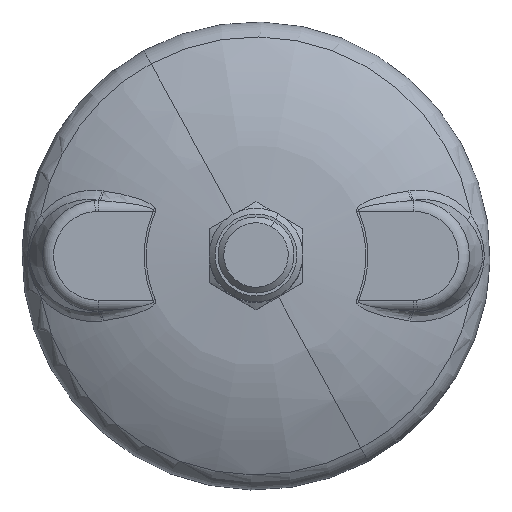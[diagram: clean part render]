
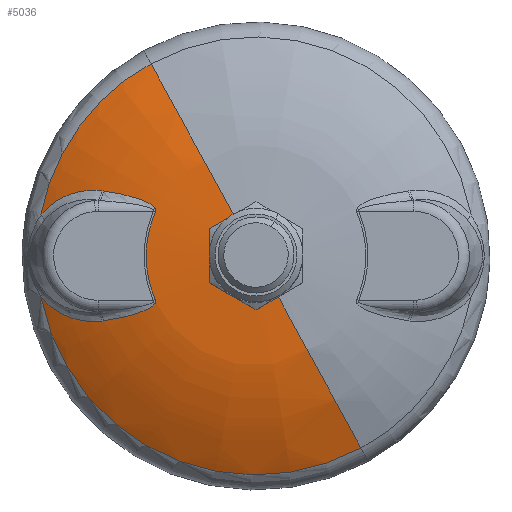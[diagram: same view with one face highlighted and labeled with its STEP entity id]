
A CAD part, top view. The second image highlights one B-rep face of the part: STEP entity #5036.
In plain terms, the highlighted face is a revolution surface.
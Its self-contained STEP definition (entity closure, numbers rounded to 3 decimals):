
#2586=EDGE_CURVE('',#7597,#7598,#7599,.T.);
#2624=EDGE_CURVE('',#7665,#7666,#7667,.F.);
#3098=EDGE_CURVE('',#8497,#8498,#8499,.F.);
#4350=EDGE_CURVE('',#10439,#10440,#10441,.T.);
#4548=EDGE_CURVE('',#10724,#7666,#10725,.T.);
#5036=ADVANCED_FACE('',(#11381),#11382,.F.);
#5262=EDGE_CURVE('',#11555,#8497,#11677,.T.);
#5446=EDGE_CURVE('',#10439,#11555,#11904,.F.);
#5798=EDGE_CURVE('',#10440,#7598,#12333,.T.);
#5832=EDGE_CURVE('',#10467,#11928,#12373,.F.);
#6240=EDGE_CURVE('',#11928,#7665,#12854,.F.);
#6622=EDGE_CURVE('',#8498,#10467,#13299,.F.);
#7252=EDGE_CURVE('',#10724,#7597,#14025,.T.);
#7597=VERTEX_POINT('',#14565);
#7598=VERTEX_POINT('',#14566);
#7599=CIRCLE('',#14567,8.0);
#7665=VERTEX_POINT('',#14710);
#7666=VERTEX_POINT('',#14711);
#7667=B_SPLINE_CURVE_WITH_KNOTS('',5,(#14712,#14713,#14714,#14715,#14716,#14717,#14718,#14719,#14720,#14721,#14722,#14723),.UNSPECIFIED.,.F.,.F.,(6,3,3,6),(46.598,50.847,54.838,60.567),.UNSPECIFIED.);
#8497=VERTEX_POINT('',#16446);
#8498=VERTEX_POINT('',#16447);
#8499=B_SPLINE_CURVE_WITH_KNOTS('',5,(#16448,#16449,#16450,#16451,#16452,#16453,#16454,#16455,#16456,#16457,#16458,#16459,#16460,#16461,#16462,#16463,#16464,#16465,#16466,#16467,#16468,#16469,#16470,#16471),.UNSPECIFIED.,.F.,.F.,(6,3,3,3,3,3,3,6),(30.415,30.632,30.85,31.433,32.436,34.208,38.264,44.425),.UNSPECIFIED.);
#10439=VERTEX_POINT('',#21092);
#10440=VERTEX_POINT('',#21093);
#10441=CIRCLE('',#21094,37.429);
#10467=VERTEX_POINT('',#21154);
#10724=VERTEX_POINT('',#21709);
#10725=CIRCLE('',#21710,37.429);
#11381=FACE_OUTER_BOUND('',#23150,.T.);
#11382=SURFACE_OF_REVOLUTION('',#23151,#23152);
#11555=VERTEX_POINT('',#23584);
#11677=B_SPLINE_CURVE_WITH_KNOTS('',3,(#23995,#23996,#23997,#23998),.UNSPECIFIED.,.F.,.F.,(4,4),(22.922,23.374),.UNSPECIFIED.);
#11904=B_SPLINE_CURVE_WITH_KNOTS('',5,(#24529,#24530,#24531,#24532,#24533,#24534,#24535,#24536,#24537,#24538,#24539,#24540),.UNSPECIFIED.,.F.,.F.,(6,3,3,6),(20.32,27.869,31.321,34.286),.UNSPECIFIED.);
#11928=VERTEX_POINT('',#24585);
#12333=CIRCLE('',#25509,60.571);
#12373=B_SPLINE_CURVE_WITH_KNOTS('',5,(#25616,#25617,#25618,#25619,#25620,#25621,#25622,#25623,#25624,#25625,#25626,#25627,#25628,#25629,#25630,#25631,#25632,#25633,#25634,#25635,#25636),.UNSPECIFIED.,.F.,.F.,(6,3,3,3,3,3,6),(20.702,28.583,32.378,33.408,34.102,34.446,34.702),.UNSPECIFIED.);
#12854=B_SPLINE_CURVE_WITH_KNOTS('',3,(#26955,#26956,#26957,#26958),.UNSPECIFIED.,.F.,.F.,(4,4),(22.922,23.374),.UNSPECIFIED.);
#13299=CIRCLE('',#28031,18.786);
#14025=CIRCLE('',#29837,60.571);
#14565=CARTESIAN_POINT('',(-3.835,7.021,17.0));
#14566=CARTESIAN_POINT('',(3.835,-7.021,17.0));
#14567=AXIS2_PLACEMENT_3D('',#30321,#30322,#30323);
#14710=CARTESIAN_POINT('',(-26.373,11.133,13.38));
#14711=CARTESIAN_POINT('',(-36.769,6.997,9.37));
#14712=CARTESIAN_POINT('',(-36.769,6.997,9.37));
#14713=CARTESIAN_POINT('',(-36.211,7.682,9.604));
#14714=CARTESIAN_POINT('',(-35.616,8.275,9.851));
#14715=CARTESIAN_POINT('',(-35.,8.788,10.103));
#14716=CARTESIAN_POINT('',(-33.777,9.646,10.598));
#14717=CARTESIAN_POINT('',(-32.52,10.263,11.094));
#14718=CARTESIAN_POINT('',(-31.907,10.51,11.333));
#14719=CARTESIAN_POINT('',(-30.413,10.997,11.909));
#14720=CARTESIAN_POINT('',(-28.927,11.22,12.464));
#14721=CARTESIAN_POINT('',(-28.06,11.268,12.781));
#14722=CARTESIAN_POINT('',(-27.207,11.238,13.087));
#14723=CARTESIAN_POINT('',(-26.373,11.133,13.38));
#16446=CARTESIAN_POINT('',(-26.073,-11.095,13.484));
#16447=CARTESIAN_POINT('',(-17.242,-7.458,16.032));
#16448=CARTESIAN_POINT('',(-17.242,-7.458,16.032));
#16449=CARTESIAN_POINT('',(-17.219,-7.511,16.032));
#16450=CARTESIAN_POINT('',(-17.199,-7.569,16.031));
#16451=CARTESIAN_POINT('',(-17.185,-7.63,16.029));
#16452=CARTESIAN_POINT('',(-17.172,-7.751,16.022));
#16453=CARTESIAN_POINT('',(-17.183,-7.858,16.012));
#16454=CARTESIAN_POINT('',(-17.193,-7.908,16.007));
#16455=CARTESIAN_POINT('',(-17.24,-8.074,15.986));
#16456=CARTESIAN_POINT('',(-17.315,-8.197,15.964));
#16457=CARTESIAN_POINT('',(-17.373,-8.277,15.947));
#16458=CARTESIAN_POINT('',(-17.542,-8.473,15.902));
#16459=CARTESIAN_POINT('',(-17.727,-8.626,15.857));
#16460=CARTESIAN_POINT('',(-17.844,-8.713,15.828));
#16461=CARTESIAN_POINT('',(-18.182,-8.939,15.747));
#16462=CARTESIAN_POINT('',(-18.534,-9.126,15.663));
#16463=CARTESIAN_POINT('',(-18.758,-9.234,15.61));
#16464=CARTESIAN_POINT('',(-19.512,-9.571,15.427));
#16465=CARTESIAN_POINT('',(-20.283,-9.84,15.232));
#16466=CARTESIAN_POINT('',(-20.822,-10.012,15.091));
#16467=CARTESIAN_POINT('',(-22.189,-10.402,14.719));
#16468=CARTESIAN_POINT('',(-23.569,-10.705,14.309));
#16469=CARTESIAN_POINT('',(-24.4,-10.861,14.049));
#16470=CARTESIAN_POINT('',(-25.236,-10.992,13.773));
#16471=CARTESIAN_POINT('',(-26.073,-11.095,13.484));
#21092=CARTESIAN_POINT('',(-36.769,-6.997,9.37));
#21093=CARTESIAN_POINT('',(17.945,-32.847,9.37));
#21094=AXIS2_PLACEMENT_3D('',#33059,#33060,#33061);
#21154=CARTESIAN_POINT('',(-17.242,7.458,16.032));
#21709=CARTESIAN_POINT('',(-17.945,32.847,9.37));
#21710=AXIS2_PLACEMENT_3D('',#33296,#33297,#33298);
#23150=EDGE_LOOP('',(#34014,#34015,#34016,#34017,#34018,#34019,#34020,#34021,#34022,#34023,#34024,#34025));
#23151=B_SPLINE_CURVE_WITH_KNOTS('',4,(#34026,#34027,#34028,#34029,#34030),.UNSPECIFIED.,.F.,.F.,(5,5),(64.415,95.145),.UNSPECIFIED.);
#23152=AXIS1_PLACEMENT('',#34031,#34032);
#23584=CARTESIAN_POINT('',(-26.373,-11.133,13.38));
#23995=CARTESIAN_POINT('',(-26.373,-11.133,13.38));
#23996=CARTESIAN_POINT('',(-26.273,-11.12,13.415));
#23997=CARTESIAN_POINT('',(-26.173,-11.108,13.45));
#23998=CARTESIAN_POINT('',(-26.073,-11.095,13.484));
#24529=CARTESIAN_POINT('',(-26.373,-11.133,13.38));
#24530=CARTESIAN_POINT('',(-27.473,-11.271,12.993));
#24531=CARTESIAN_POINT('',(-28.605,-11.279,12.585));
#24532=CARTESIAN_POINT('',(-29.758,-11.15,12.157));
#24533=CARTESIAN_POINT('',(-31.455,-10.743,11.512));
#24534=CARTESIAN_POINT('',(-33.135,-9.962,10.852));
#24535=CARTESIAN_POINT('',(-33.659,-9.678,10.643));
#24536=CARTESIAN_POINT('',(-34.621,-9.071,10.257));
#24537=CARTESIAN_POINT('',(-35.551,-8.302,9.877));
#24538=CARTESIAN_POINT('',(-35.971,-7.91,9.703));
#24539=CARTESIAN_POINT('',(-36.379,-7.476,9.533));
#24540=CARTESIAN_POINT('',(-36.769,-6.997,9.37));
#24585=CARTESIAN_POINT('',(-26.074,11.095,13.484));
#25509=AXIS2_PLACEMENT_3D('',#35005,#35006,#35007);
#25616=CARTESIAN_POINT('',(-26.074,11.095,13.484));
#25617=CARTESIAN_POINT('',(-25.003,10.963,13.854));
#25618=CARTESIAN_POINT('',(-23.936,10.786,14.2));
#25619=CARTESIAN_POINT('',(-22.87,10.565,14.525));
#25620=CARTESIAN_POINT('',(-21.297,10.181,14.971));
#25621=CARTESIAN_POINT('',(-19.75,9.654,15.368));
#25622=CARTESIAN_POINT('',(-19.253,9.461,15.491));
#25623=CARTESIAN_POINT('',(-18.624,9.196,15.642));
#25624=CARTESIAN_POINT('',(-18.025,8.834,15.785));
#25625=CARTESIAN_POINT('',(-17.9,8.752,15.815));
#25626=CARTESIAN_POINT('',(-17.693,8.603,15.865));
#25627=CARTESIAN_POINT('',(-17.498,8.42,15.914));
#25628=CARTESIAN_POINT('',(-17.422,8.339,15.934));
#25629=CARTESIAN_POINT('',(-17.313,8.205,15.963));
#25630=CARTESIAN_POINT('',(-17.228,8.027,15.992));
#25631=CARTESIAN_POINT('',(-17.203,7.959,16.001));
#25632=CARTESIAN_POINT('',(-17.171,7.826,16.017));
#25633=CARTESIAN_POINT('',(-17.178,7.663,16.028));
#25634=CARTESIAN_POINT('',(-17.192,7.589,16.031));
#25635=CARTESIAN_POINT('',(-17.215,7.521,16.032));
#25636=CARTESIAN_POINT('',(-17.242,7.458,16.032));
#26955=CARTESIAN_POINT('',(-26.373,11.133,13.38));
#26956=CARTESIAN_POINT('',(-26.273,11.12,13.415));
#26957=CARTESIAN_POINT('',(-26.173,11.108,13.45));
#26958=CARTESIAN_POINT('',(-26.073,11.095,13.484));
#28031=AXIS2_PLACEMENT_3D('',#36085,#36086,#36087);
#29837=AXIS2_PLACEMENT_3D('',#37214,#37215,#37216);
#30321=CARTESIAN_POINT('',(0.0,0.0,17.0));
#30322=DIRECTION('',(0.0,0.0,1.0));
#30323=DIRECTION('',(1.0,0.0,0.0));
#33059=CARTESIAN_POINT('',(0.0,0.0,9.37));
#33060=DIRECTION('',(0.0,0.0,1.0));
#33061=DIRECTION('',(1.0,0.0,0.0));
#33296=CARTESIAN_POINT('',(0.0,0.0,9.37));
#33297=DIRECTION('',(0.0,0.0,1.0));
#33298=DIRECTION('',(1.0,0.0,0.0));
#34014=ORIENTED_EDGE('',*,*,#4350,.T.);
#34015=ORIENTED_EDGE('',*,*,#5798,.T.);
#34016=ORIENTED_EDGE('',*,*,#2586,.F.);
#34017=ORIENTED_EDGE('',*,*,#7252,.F.);
#34018=ORIENTED_EDGE('',*,*,#4548,.T.);
#34019=ORIENTED_EDGE('',*,*,#2624,.F.);
#34020=ORIENTED_EDGE('',*,*,#6240,.F.);
#34021=ORIENTED_EDGE('',*,*,#5832,.F.);
#34022=ORIENTED_EDGE('',*,*,#6622,.F.);
#34023=ORIENTED_EDGE('',*,*,#3098,.F.);
#34024=ORIENTED_EDGE('',*,*,#5262,.F.);
#34025=ORIENTED_EDGE('',*,*,#5446,.F.);
#34026=CARTESIAN_POINT('',(-17.945,32.847,9.37));
#34027=CARTESIAN_POINT('',(-14.725,26.954,13.103));
#34028=CARTESIAN_POINT('',(-11.203,20.506,15.7));
#34029=CARTESIAN_POINT('',(-7.519,13.763,17.0));
#34030=CARTESIAN_POINT('',(-3.835,7.021,17.0));
#34031=CARTESIAN_POINT('',(0.0,0.0,9.37));
#34032=DIRECTION('',(-0.0,-0.0,-1.0));
#35005=CARTESIAN_POINT('',(3.835,-7.021,-43.571));
#35006=DIRECTION('',(-0.878,-0.479,0.0));
#35007=DIRECTION('',(0.479,-0.878,0.0));
#36085=CARTESIAN_POINT('',(0.0,0.0,16.032));
#36086=DIRECTION('',(0.0,0.0,1.0));
#36087=DIRECTION('',(1.0,0.0,0.0));
#37214=CARTESIAN_POINT('',(-3.835,7.021,-43.571));
#37215=DIRECTION('',(0.878,0.479,0.0));
#37216=DIRECTION('',(0.479,-0.878,0.0));
